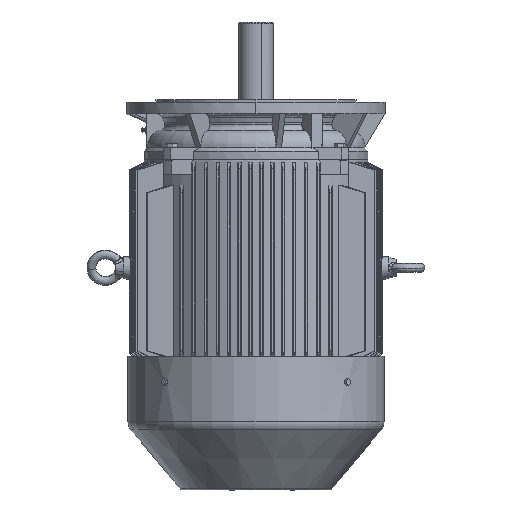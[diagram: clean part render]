
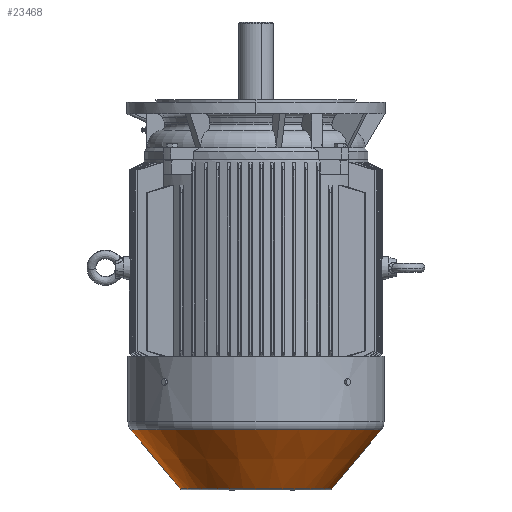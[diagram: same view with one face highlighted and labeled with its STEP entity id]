
A CAD part, front view. The second image highlights one B-rep face of the part: STEP entity #23468.
In plain terms, the highlighted conical face has half-angle 40 degrees and reference radius 132.173 mm.
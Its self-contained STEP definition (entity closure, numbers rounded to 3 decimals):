
#2555 = CIRCLE ( 'NONE', #3372, 217.853 ) ;
#2560 = CIRCLE ( 'NONE', #3377, 132.173 ) ;
#2584 = LINE ( 'NONE', #15607, #2589 ) ;
#2588 = LINE ( 'NONE', #15629, #2590 ) ;
#2589 = VECTOR ( 'NONE', #15628, 1000. ) ;
#2590 = VECTOR ( 'NONE', #15631, 1000. ) ;
#3372 = AXIS2_PLACEMENT_3D ( 'NONE', #15525, #15526, #15527 ) ;
#3377 = AXIS2_PLACEMENT_3D ( 'NONE', #15537, #15538, #15539 ) ;
#15525 = CARTESIAN_POINT ( 'NONE',  ( 128.301, 0., 0. ) ) ;
#15526 = DIRECTION ( 'NONE',  ( -1., 0., 0. ) ) ;
#15527 = DIRECTION ( 'NONE',  ( 0., -1., 0. ) ) ;
#15537 = CARTESIAN_POINT ( 'NONE',  ( 230.41, 0., 0. ) ) ;
#15538 = DIRECTION ( 'NONE',  ( -1., 0., 0. ) ) ;
#15539 = DIRECTION ( 'NONE',  ( 0., -1., 0. ) ) ;
#15607 = CARTESIAN_POINT ( 'NONE',  ( 230.41, 132.173, 0. ) ) ;
#15628 = DIRECTION ( 'NONE',  ( -0.766, 0.643, 0. ) ) ;
#15629 = CARTESIAN_POINT ( 'NONE',  ( 230.41, -132.173, 0. ) ) ;
#15631 = DIRECTION ( 'NONE',  ( -0.766, -0.643, 0. ) ) ;
#23468 = ADVANCED_FACE ( 'NONE', ( #91703 ), #91707, .T. ) ;
#27119 = EDGE_CURVE ( 'NONE', #50317, #50062, #2555, .T. ) ;
#27127 = EDGE_CURVE ( 'NONE', #49861, #50034, #2560, .T. ) ;
#27181 = EDGE_CURVE ( 'NONE', #50034, #50062, #2584, .T. ) ;
#27184 = EDGE_CURVE ( 'NONE', #49861, #50317, #2588, .T. ) ;
#35136 = CARTESIAN_POINT ( 'NONE',  ( 230.41, -132.173, 0. ) ) ;
#35231 = CARTESIAN_POINT ( 'NONE',  ( 230.41, 132.173, 0. ) ) ;
#35244 = CARTESIAN_POINT ( 'NONE',  ( 128.301, 217.853, 0. ) ) ;
#35374 = CARTESIAN_POINT ( 'NONE',  ( 128.301, -217.853, 0. ) ) ;
#40071 = DIRECTION ( 'NONE',  ( 0., -1., 0. ) ) ;
#40073 = DIRECTION ( 'NONE',  ( -1., 0., 0. ) ) ;
#40079 = CARTESIAN_POINT ( 'NONE',  ( 230.41, 0., 0. ) ) ;
#48491 = ORIENTED_EDGE ( 'NONE', *, *, #27181, .T. ) ;
#48497 = ORIENTED_EDGE ( 'NONE', *, *, #27184, .F. ) ;
#48498 = ORIENTED_EDGE ( 'NONE', *, *, #27119, .F. ) ;
#48500 = ORIENTED_EDGE ( 'NONE', *, *, #27127, .T. ) ;
#49861 = VERTEX_POINT ( 'NONE', #35136 ) ;
#50034 = VERTEX_POINT ( 'NONE', #35231 ) ;
#50062 = VERTEX_POINT ( 'NONE', #35244 ) ;
#50317 = VERTEX_POINT ( 'NONE', #35374 ) ;
#53423 = EDGE_LOOP ( 'NONE', ( #48500, #48491, #48498, #48497 ) ) ;
#86979 = AXIS2_PLACEMENT_3D ( 'NONE', #40079, #40073, #40071 ) ;
#91703 = FACE_OUTER_BOUND ( 'NONE', #53423, .T. ) ;
#91707 = CONICAL_SURFACE ( 'NONE', #86979, 132.173, 0.698 ) ;
